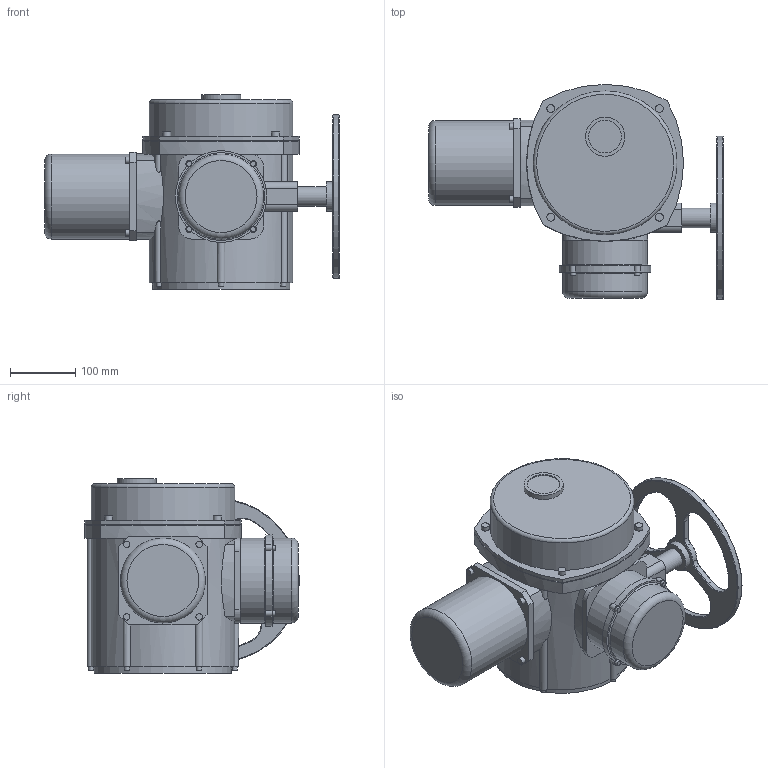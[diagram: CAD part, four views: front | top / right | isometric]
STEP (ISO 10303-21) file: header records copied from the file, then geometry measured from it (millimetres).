
FILE_DESCRIPTION(('STEP AP203'), '1');
FILE_NAME('楋樏襝鍱睯蜬蠈錪 QT.Z 300', '', ('UNSPECIFIED'), ('UNSPECIFIED'), 'ASCON STEP Converter 1.6', 'ASCON Math Kernel', '');
FILE_SCHEMA(('CONFIG_CONTROL_DESIGN'));
Length unit declared in the file: millimetre
Bounding box: 451 x 329 x 298 mm (x, y, z)
Volume: 15212083.8 mm3; surface area: 633682.5 mm2
Topology: 1 solids, 1 shells, 257 faces, 598 edges, 372 vertices
Faces by surface type: cylinder 122, plane 76, torus 43, cone 16
Full cylindrical faces by diameter (mm): 8 x10, 10 x4, 12 x4, 12.386 x1, 13.835 x4, 17.294 x4, 30 x1, 45 x1, 50 x1, 60 x1, 100 x1, 130 x3, 210 x1, 220 x1, 250 x1
Entity records: 10524 total; most frequent: CARTESIAN_POINT 2643, DIRECTION 1327, ORIENTED_EDGE 1058, AXIS2_PLACEMENT_3D 573, EDGE_CURVE 529, VERTEX_POINT 364, EDGE_LOOP 353, CIRCLE 315
